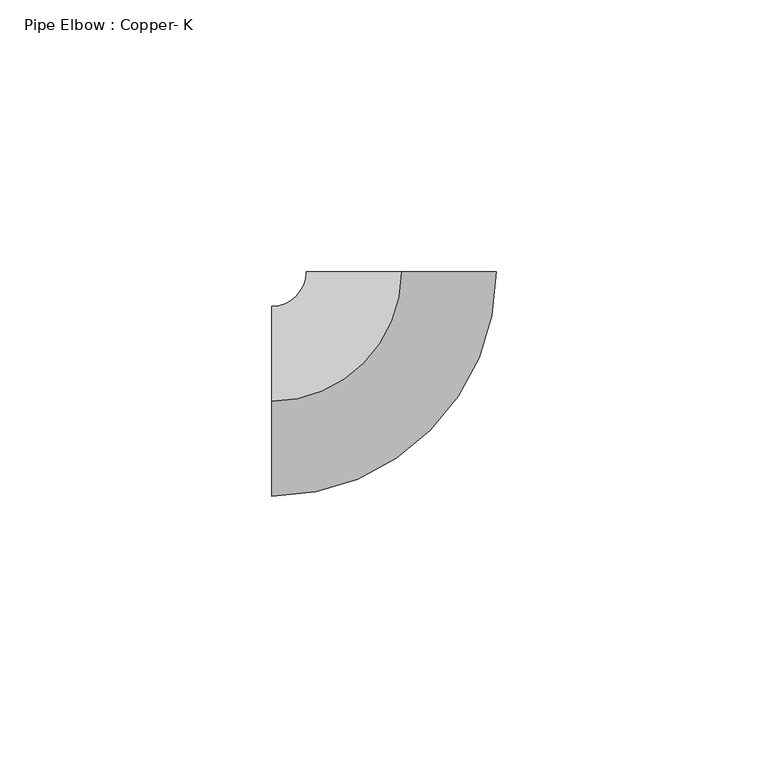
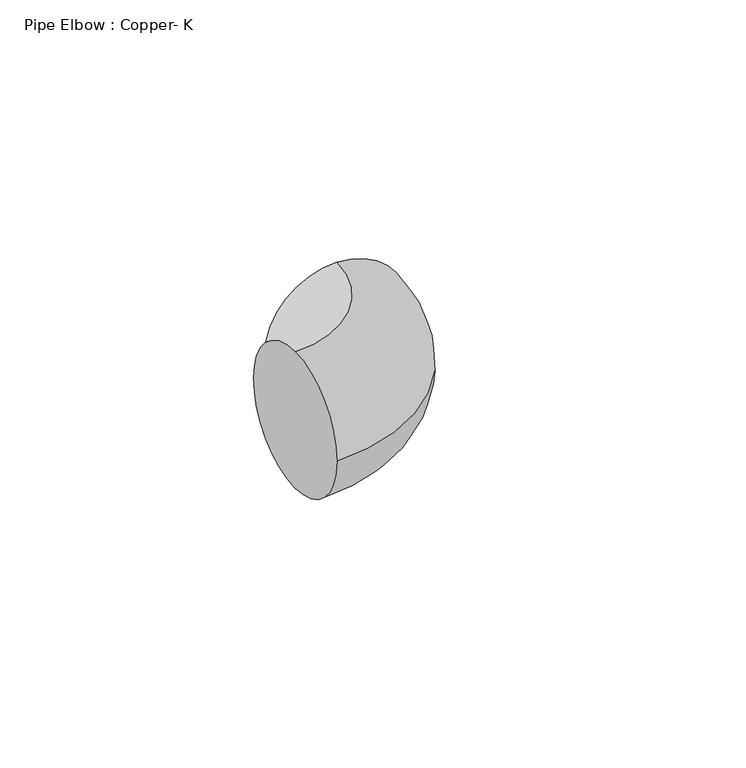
"""IFC4 building model written with IfcOpenShell, lengths in millimetres: pipe fitting geometry, Pipe Elbow : Copper- K."""

from ifc_helpers import new_model, si_unit, point, frame, origin, place, context, project, spatial, circle_curve, ellipse_curve, trimmed, source, transform, mapped, element, save
from ifc_brep_helpers import plane_surface, revolved_surface, advanced_brep


def pipe_elbow_copper_k_cd8a373b(model_context):
    return source(origin(), model_context, "Body", "AdvancedBrep", [
        advanced_brep(
        [(-23.8111774, 0.0, 17.4625), (-23.8111774, 17.4625, 0.0), (-23.8111774, 0.0, -17.4625), (-23.8111774, -17.4625, 0.0), (0.0013225, 23.8111774, 17.4625), (17.4638225, 23.8102075, 0.0), (0.0013225, 23.8111774, -17.4625), (-17.4611774, 23.8121473, 0.0)],
        [
            (0, 1, circle_curve(frame((-23.8111774, 0.0, 0.0), z_axis=(-1.0, 0.0, 0.0), x_axis=(0.0, 1.0, 0.0)), 17.4625)),
            (1, 2, circle_curve(frame((-23.8111774, 0.0, 0.0), z_axis=(-1.0, 0.0, 0.0), x_axis=(0.0, 1.0, 0.0)), 17.4625)),
            (2, 3, circle_curve(frame((-23.8111774, 0.0, 0.0), z_axis=(-1.0, 0.0, 0.0), x_axis=(0.0, 1.0, 0.0)), 17.4625)),
            (3, 0, circle_curve(frame((-23.8111774, 0.0, 0.0), z_axis=(-1.0, 0.0, 0.0), x_axis=(0.0, 1.0, 0.0)), 17.4625)),
            (4, 5, circle_curve(frame((0.0013225, 23.8111774, 0.0), z_axis=(5.5543008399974e-05, 0.9999999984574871, 0.0), x_axis=(-0.9999999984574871, 5.5543008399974e-05, 0.0)), 17.4625)),
            (5, 6, circle_curve(frame((0.0013225, 23.8111774, 0.0), z_axis=(5.5543008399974e-05, 0.9999999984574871, 0.0), x_axis=(-0.9999999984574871, 5.5543008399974e-05, 0.0)), 17.4625)),
            (6, 7, circle_curve(frame((0.0013225, 23.8111774, 0.0), z_axis=(5.5543008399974e-05, 0.9999999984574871, 0.0), x_axis=(-0.9999999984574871, 5.5543008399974e-05, 0.0)), 17.4625)),
            (7, 4, circle_curve(frame((0.0013225, 23.8111774, 0.0), z_axis=(5.5543008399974e-05, 0.9999999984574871, 0.0), x_axis=(-0.9999999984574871, 5.5543008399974e-05, 0.0)), 17.4625)),
            (7, 1, circle_curve(frame((-23.8111774, 23.8125, 0.0), z_axis=(0.0, 0.0, -1.0), x_axis=(0.0, -1.0, 0.0)), 6.35)),
            (0, 4, circle_curve(frame((-23.8111774, 23.8125, 17.4625), z_axis=(0.0, 0.0, 1.0), x_axis=(0.0, -1.0, 0.0)), 23.8125)),
            (6, 2, circle_curve(frame((-23.8111774, 23.8125, -17.4625), z_axis=(0.0, 0.0, -1.0), x_axis=(0.0, -1.0, 0.0)), 23.8125)),
            (5, 3, circle_curve(frame((-23.8111774, 23.8125, 0.0), z_axis=(0.0, 0.0, -1.0), x_axis=(0.0, -1.0, 0.0)), 41.275)),
        ],
        [
            plane_surface(frame((-23.8111774, 0.0, 0.0), z_axis=(-1.0, 0.0, 0.0), x_axis=(0.0, 0.0, 1.0))),
            plane_surface(frame((0.0013225, 23.8111774, 0.0), z_axis=(5.554300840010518e-05, 0.9999999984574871, 0.0), x_axis=(0.0, 0.0, 1.0))),
            revolved_surface(trimmed(ellipse_curve(frame((-23.8111774, 0.0, 0.0), z_axis=(-1.0, 0.0, 0.0), x_axis=(0.0, 1.0, 0.0)), 17.4625, 17.4625), [point((-23.8111774, 0.0, 17.4625))], [point((-23.8111774, 17.4625, 0.0))], True, "CARTESIAN"), (-23.8111774, 23.8125, 0.0), (0.0, 0.0, 1.0)),
            revolved_surface(trimmed(ellipse_curve(frame((-23.8111774, 0.0, 0.0), z_axis=(-1.0, 0.0, 0.0), x_axis=(0.0, 1.0, 0.0)), 17.4625, 17.4625), [point((-23.8111774, 17.4625, 0.0))], [point((-23.8111774, 0.0, -17.4625))], True, "CARTESIAN"), (-23.8111774, 23.8125, 0.0), (0.0, 0.0, 1.0)),
            revolved_surface(trimmed(ellipse_curve(frame((-23.8111774, 0.0, 0.0), z_axis=(-1.0, 0.0, 0.0), x_axis=(0.0, 1.0, 0.0)), 17.4625, 17.4625), [point((-23.8111774, 0.0, -17.4625))], [point((-23.8111774, -17.4625, 0.0))], True, "CARTESIAN"), (-23.8111774, 23.8125, 0.0), (0.0, 0.0, 1.0)),
            revolved_surface(trimmed(ellipse_curve(frame((-23.8111774, 0.0, 0.0), z_axis=(-1.0, 0.0, 0.0), x_axis=(0.0, 1.0, 0.0)), 17.4625, 17.4625), [point((-23.8111774, -17.4625, 0.0))], [point((-23.8111774, 0.0, 17.4625))], True, "CARTESIAN"), (-23.8111774, 23.8125, 0.0), (0.0, 0.0, 1.0)),
        ],
        [
            (0, [[1, 2, 3, 4]]),
            (1, [[5, 6, 7, 8]]),
            (2, [[9, -1, 10, -8]]),
            (3, [[11, -2, -9, -7]]),
            (4, [[12, -3, -11, -6]]),
            (5, [[-10, -4, -12, -5]]),
        ],
    ),
        advanced_brep(
        [(-23.8111774, 0.0, 17.4625), (-23.8111774, 17.4625, 0.0), (-23.8111774, 0.0, -17.4625), (-23.8111774, -17.4625, 0.0), (0.0013225, 23.8111774, 17.4625), (17.4638225, 23.8102075, 0.0), (0.0013225, 23.8111774, -17.4625), (-17.4611774, 23.8121473, 0.0)],
        [
            (0, 1, circle_curve(frame((-23.8111774, 0.0, 0.0), z_axis=(-1.0, 0.0, 0.0), x_axis=(0.0, 1.0, 0.0)), 17.4625)),
            (1, 2, circle_curve(frame((-23.8111774, 0.0, 0.0), z_axis=(-1.0, 0.0, 0.0), x_axis=(0.0, 1.0, 0.0)), 17.4625)),
            (2, 3, circle_curve(frame((-23.8111774, 0.0, 0.0), z_axis=(-1.0, 0.0, 0.0), x_axis=(0.0, 1.0, 0.0)), 17.4625)),
            (3, 0, circle_curve(frame((-23.8111774, 0.0, 0.0), z_axis=(-1.0, 0.0, 0.0), x_axis=(0.0, 1.0, 0.0)), 17.4625)),
            (4, 5, circle_curve(frame((0.0013225, 23.8111774, 0.0), z_axis=(5.5543008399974e-05, 0.9999999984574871, 0.0), x_axis=(-0.9999999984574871, 5.5543008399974e-05, 0.0)), 17.4625)),
            (5, 6, circle_curve(frame((0.0013225, 23.8111774, 0.0), z_axis=(5.5543008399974e-05, 0.9999999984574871, 0.0), x_axis=(-0.9999999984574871, 5.5543008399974e-05, 0.0)), 17.4625)),
            (6, 7, circle_curve(frame((0.0013225, 23.8111774, 0.0), z_axis=(5.5543008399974e-05, 0.9999999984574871, 0.0), x_axis=(-0.9999999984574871, 5.5543008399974e-05, 0.0)), 17.4625)),
            (7, 4, circle_curve(frame((0.0013225, 23.8111774, 0.0), z_axis=(5.5543008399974e-05, 0.9999999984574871, 0.0), x_axis=(-0.9999999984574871, 5.5543008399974e-05, 0.0)), 17.4625)),
            (7, 1, circle_curve(frame((-23.8111774, 23.8125, 0.0), z_axis=(0.0, 0.0, -1.0), x_axis=(0.0, -1.0, 0.0)), 6.35)),
            (0, 4, circle_curve(frame((-23.8111774, 23.8125, 17.4625), z_axis=(0.0, 0.0, 1.0), x_axis=(0.0, -1.0, 0.0)), 23.8125)),
            (6, 2, circle_curve(frame((-23.8111774, 23.8125, -17.4625), z_axis=(0.0, 0.0, -1.0), x_axis=(0.0, -1.0, 0.0)), 23.8125)),
            (5, 3, circle_curve(frame((-23.8111774, 23.8125, 0.0), z_axis=(0.0, 0.0, -1.0), x_axis=(0.0, -1.0, 0.0)), 41.275)),
        ],
        [
            plane_surface(frame((-23.8111774, 0.0, 0.0), z_axis=(-1.0, 0.0, 0.0), x_axis=(0.0, 0.0, 1.0))),
            plane_surface(frame((0.0013225, 23.8111774, 0.0), z_axis=(5.554300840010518e-05, 0.9999999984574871, 0.0), x_axis=(0.0, 0.0, 1.0))),
            revolved_surface(trimmed(ellipse_curve(frame((-23.8111774, 0.0, 0.0), z_axis=(-1.0, 0.0, 0.0), x_axis=(0.0, 1.0, 0.0)), 17.4625, 17.4625), [point((-23.8111774, 0.0, 17.4625))], [point((-23.8111774, 17.4625, 0.0))], True, "CARTESIAN"), (-23.8111774, 23.8125, 0.0), (0.0, 0.0, 1.0)),
            revolved_surface(trimmed(ellipse_curve(frame((-23.8111774, 0.0, 0.0), z_axis=(-1.0, 0.0, 0.0), x_axis=(0.0, 1.0, 0.0)), 17.4625, 17.4625), [point((-23.8111774, 17.4625, 0.0))], [point((-23.8111774, 0.0, -17.4625))], True, "CARTESIAN"), (-23.8111774, 23.8125, 0.0), (0.0, 0.0, 1.0)),
            revolved_surface(trimmed(ellipse_curve(frame((-23.8111774, 0.0, 0.0), z_axis=(-1.0, 0.0, 0.0), x_axis=(0.0, 1.0, 0.0)), 17.4625, 17.4625), [point((-23.8111774, 0.0, -17.4625))], [point((-23.8111774, -17.4625, 0.0))], True, "CARTESIAN"), (-23.8111774, 23.8125, 0.0), (0.0, 0.0, 1.0)),
            revolved_surface(trimmed(ellipse_curve(frame((-23.8111774, 0.0, 0.0), z_axis=(-1.0, 0.0, 0.0), x_axis=(0.0, 1.0, 0.0)), 17.4625, 17.4625), [point((-23.8111774, -17.4625, 0.0))], [point((-23.8111774, 0.0, 17.4625))], True, "CARTESIAN"), (-23.8111774, 23.8125, 0.0), (0.0, 0.0, 1.0)),
        ],
        [
            (0, [[1, 2, 3, 4]]),
            (1, [[5, 6, 7, 8]]),
            (2, [[9, -1, 10, -8]]),
            (3, [[11, -2, -9, -7]]),
            (4, [[12, -3, -11, -6]]),
            (5, [[-10, -4, -12, -5]]),
        ],
    ),
    ])


if __name__ == "__main__":
    model = new_model("IFC4")
    model_context = context("Model", 3, world=origin())
    ifc_project = project(units=[si_unit("LENGTHUNIT", "METRE", prefix="MILLI")], contexts=[model_context])
    site = spatial("IfcSite", under=ifc_project)
    building = spatial("IfcBuilding", under=site)
    placement = place(None, origin())
    pipe_elbow_copper_k_shape = pipe_elbow_copper_k_cd8a373b(model_context)
    element("IfcPipeFitting", 1, ObjectType="Pipe Elbow : Copper- K", at=placement, inside=building, context=model_context, shape_type="MappedRepresentation", body=[
        mapped(pipe_elbow_copper_k_shape, transform((0.0, 0.0, 0.0), x_axis=(1.0, 0.0, 0.0), y_axis=(0.0, 1.0, 0.0), z_axis=(0.0, 0.0, 1.0))),
    ])
    save(model, "model.ifc")
